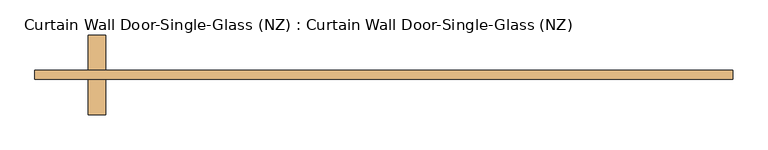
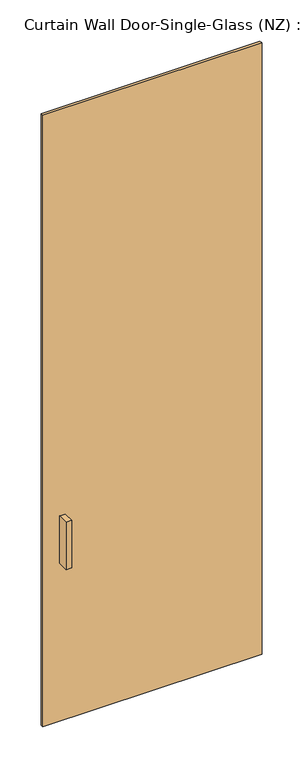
"""IFC4 building model written with IfcOpenShell, lengths in millimetres: door geometry, Curtain Wall Door-Single-Glass (NZ) : Curtain Wall Door-Single-Glass (NZ)."""

from ifc_helpers import new_model, si_unit, frame, origin, origin_with_axes, place, context, project, spatial, polyline, outline, extrude, source, transform, mapped, element, save


def curtain_wall_door_single_glass_nz_curtain_wall_door_single_aa36e8cf(model_context):
    return source(origin(), model_context, "Body", "SweptSolid", [
        extrude(outline(polyline([(500.0, -51.0), (-500.0, -51.0), (-500.0, -38.3), (500.0, -38.3), (500.0, -51.0)])), origin_with_axes(), (0.0, 0.0, 1.0), 2950.0),
        extrude(outline(polyline([(-423.8, -101.8), (-423.8, -51.0), (-398.4, -51.0), (-398.4, -101.8), (-423.8, -101.8)])), frame((0.0, 0.0, 762.0), z_axis=(0.0, 0.0, 1.0), x_axis=(1.0, 0.0, 0.0)), (0.0, 0.0, 1.0), 228.6),
        extrude(outline(polyline([(-398.4, 12.5), (-398.4, -38.3), (-423.8, -38.3), (-423.8, 12.5), (-398.4, 12.5)])), frame((0.0, 0.0, 762.0), z_axis=(0.0, 0.0, 1.0), x_axis=(1.0, 0.0, 0.0)), (0.0, 0.0, 1.0), 228.6),
    ])


if __name__ == "__main__":
    model = new_model("IFC4")
    model_context = context("Model", 3, world=origin())
    ifc_project = project(units=[si_unit("LENGTHUNIT", "METRE", prefix="MILLI")], contexts=[model_context])
    site = spatial("IfcSite", under=ifc_project)
    building = spatial("IfcBuilding", under=site)
    placement = place(None, origin())
    curtain_wall_door_single_glass_nz_curtain_wall_door_single_shape = curtain_wall_door_single_glass_nz_curtain_wall_door_single_aa36e8cf(model_context)
    element("IfcDoor", 1, ObjectType="Curtain Wall Door-Single-Glass (NZ) : Curtain Wall Door-Single-Glass (NZ)", at=placement, inside=building, context=model_context, shape_type="MappedRepresentation", body=[
        mapped(curtain_wall_door_single_glass_nz_curtain_wall_door_single_shape, transform((0.0, 0.0, 0.0), x_axis=(1.0, 0.0, 0.0), y_axis=(0.0, 1.0, 0.0), z_axis=(0.0, 0.0, 1.0))),
    ])
    save(model, "model.ifc")
